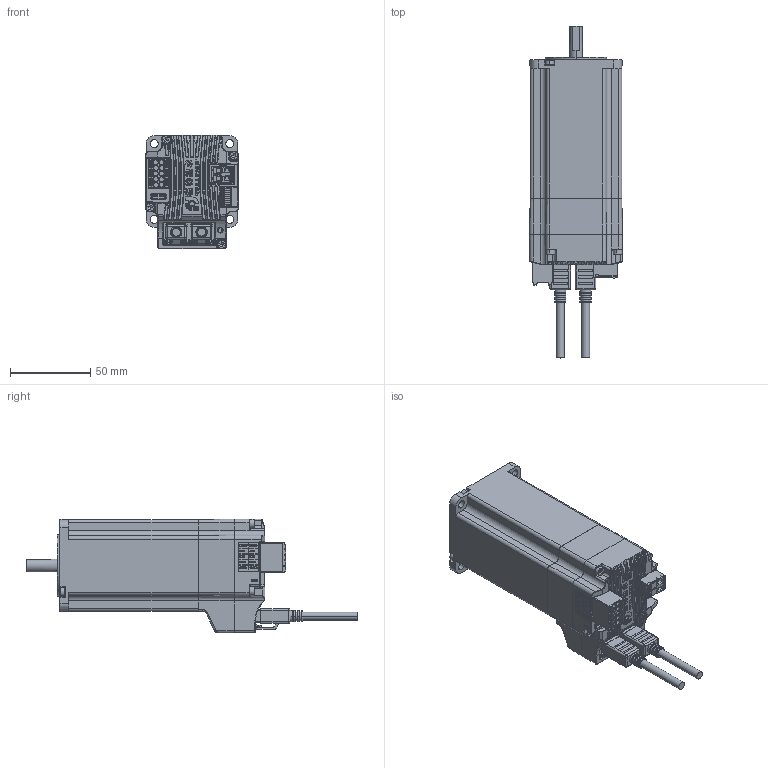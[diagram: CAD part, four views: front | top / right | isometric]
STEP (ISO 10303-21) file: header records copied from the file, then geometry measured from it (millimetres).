
FILE_DESCRIPTION((''),'2;1');
FILE_NAME('RT-IT57AM30-D0821-24V-E_C','2026-06-17T14:31:25',('ruiwe'),(''),'CREO PARAMETRIC BY PTC INC, 2021063','CREO PARAMETRIC BY PTC INC, 2021063','');
FILE_SCHEMA(('CONFIG_CONTROL_DESIGN','SHAPE_APPEARANCE_LAYERS_GROUPS'));
Products named in the file (1): RT-IT57AM30-D0821-24V-E_C
Bounding box: 57.77 x 206.32 x 70.77 mm (x, y, z)
Volume: 267811.7 mm3; surface area: 102691.9 mm2
Topology: 15 solids, 260 shells, 5212 faces, 16306 edges, 11517 vertices
Faces by surface type: plane 2738, cylinder 1368, torus 440, bspline 316, cone 275, sphere 69, extrusion 6
Entity records: 251796 total; most frequent: CARTESIAN_POINT 64492, ORIENTED_EDGE 28869, DIRECTION 26326, EDGE_CURVE 16281, PRESENTATION_STYLE_ASSIGNMENT 13281, STYLED_ITEM 13036, VERTEX_POINT 11517, CURVE_STYLE 11188
